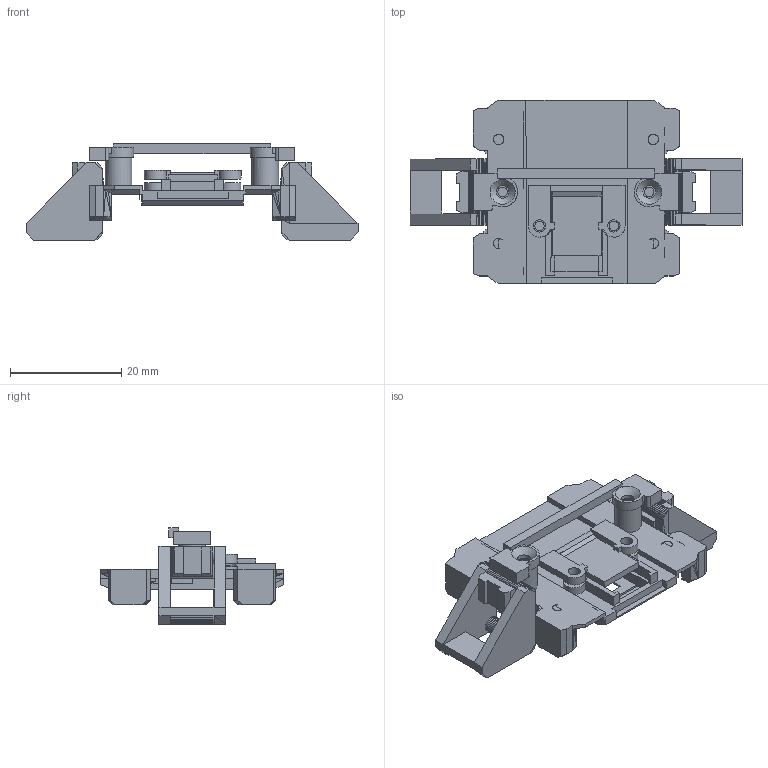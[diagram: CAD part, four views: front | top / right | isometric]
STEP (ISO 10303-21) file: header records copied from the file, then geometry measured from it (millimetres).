
FILE_DESCRIPTION(('Open CASCADE Model'),'2;1');
FILE_NAME('Open CASCADE Shape Model','2026-10-01T12:00:22',('Author'),( 'Open CASCADE'),'Open CASCADE STEP processor 7.9','Open CASCADE 7.9' ,'Unknown');
FILE_SCHEMA(('AUTOMOTIVE_DESIGN { 1 0 10303 214 1 1 1 1 }'));
Length unit declared in the file: millimetre
Products named in the file (6): Open CASCADE STEP translator 7.9 6; Open CASCADE STEP translator 7.9 6.1; Open CASCADE STEP translator 7.9 6.2; Open CASCADE STEP translator 7.9 6.3; Open CASCADE STEP translator 7.9 6.4; Open CASCADE STEP translator 7.9 6.5
Assembly tree (5 placements, depth 2):
  Open CASCADE STEP translator 7.9 6
    Open CASCADE STEP translator 7.9 6.1
    Open CASCADE STEP translator 7.9 6.2
    Open CASCADE STEP translator 7.9 6.3
    Open CASCADE STEP translator 7.9 6.4
    Open CASCADE STEP translator 7.9 6.5
Bounding box: 59.78 x 32.95 x 17.35 mm (x, y, z)
Volume: 4871.1 mm3; surface area: 6941.2 mm2
Topology: 5 solids, 5 shells, 1615 faces, 3837 edges, 2231 vertices
Faces by surface type: plane 1585, cylinder 28, cone 2
Full cylindrical faces by diameter (mm): 1.7 x4, 2.2 x2, 2.3 x2, 4.8 x2
Entity records: 94345 total; most frequent: CARTESIAN_POINT 15473, DIRECTION 14770, LINE 11325, VECTOR 11325, ORIENTED_EDGE 7674, PCURVE 7674, DEFINITIONAL_REPRESENTATION 7674, EDGE_CURVE 3837
